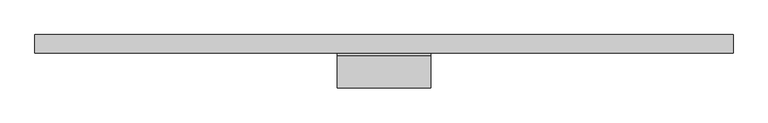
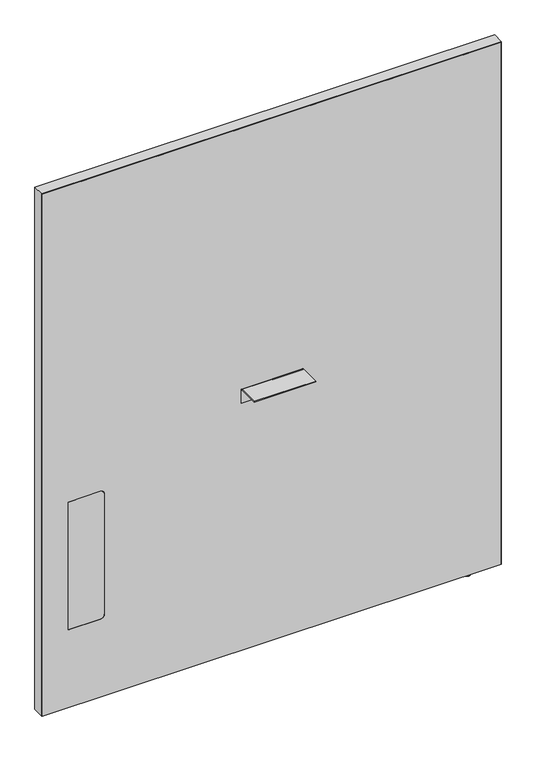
"""IFC4 building model written with IfcOpenShell, lengths in millimetres: furniture geometry, Steelcase - Answer Solution - Boundary Screen - Straight - Single Sided : 54H x 45W."""

import ifcopenshell
import ifcopenshell.guid

model = None  # the IFC model being written
_history = None  # IfcOwnerHistory: only IFC2X3 demands one
_inside = {}  # id of a spatial element -> (the spatial element, [elements in it])
_under = {}  # id of a project, library or spatial element -> (it, [spatial elements below it])
_declared = {}  # id of a project -> (the project, [libraries it declares])
_typed = {}  # id of a type object -> (the type object, [elements of that type])
_made_of = {}  # id of a material, layer set ... -> (it, [elements and type objects made of it])


def new_model(schema):
    """Start an empty IFC model of exactly this schema.

    Asked for "IFC4X3", IfcOpenShell would pick the latest addendum, in which some entities
    have other attributes; the version numbers below select the first issue.
    IFC2X3 requires an IfcOwnerHistory on every rooted entity: one is made here for all.
    """
    global model, _history
    if schema == "IFC4X3":
        model = ifcopenshell.file(schema_version=(4, 3, 0, 0))
    else:
        model = ifcopenshell.file(schema=schema)
    _inside.clear()
    _under.clear()
    _declared.clear()
    _typed.clear()
    _made_of.clear()
    _history = None
    if model.schema == "IFC2X3":
        org = make("IfcOrganization", Name="unknown")
        user = make(
            "IfcPersonAndOrganization",
            ThePerson=make("IfcPerson", FamilyName="unknown"),
            TheOrganization=org,
        )
        app = make(
            "IfcApplication",
            ApplicationDeveloper=org,
            Version="unknown",
            ApplicationFullName="unknown",
            ApplicationIdentifier="unknown",
        )
        _history = make(
            "IfcOwnerHistory",
            OwningUser=user,
            OwningApplication=app,
            ChangeAction="ADDED",
            CreationDate=0,
        )
    return model


def make(cls, **values):
    """One entity of the class cls with the attributes given. An attribute that is None is left unset."""
    return model.create_entity(
        cls, **{name: value for name, value in values.items() if value is not None}
    )


def rooted(cls, **values):
    """An entity with a GlobalId (a new one), such as an element, a storey or a relation."""
    return make(cls, GlobalId=ifcopenshell.guid.new(), OwnerHistory=_history, **values)


def si_unit(unit_type, name, prefix=None):
    """IfcSIUnit, for example si_unit("LENGTHUNIT", "METRE", prefix="MILLI")."""
    return make("IfcSIUnit", UnitType=unit_type, Prefix=prefix, Name=name)


def assignment(units):
    """IfcUnitAssignment: the units of a project."""
    return None if units is None else make("IfcUnitAssignment", Units=units)


def point(xyz):
    """IfcCartesianPoint."""
    return None if xyz is None else make("IfcCartesianPoint", Coordinates=xyz)


def direction(xyz):
    """IfcDirection."""
    return None if xyz is None else make("IfcDirection", DirectionRatios=xyz)


def frame(location, z_axis=None, x_axis=None):
    """IfcAxis2Placement3D, a coordinate frame: its origin and axes. An axis left out is left unset."""
    return make(
        "IfcAxis2Placement3D",
        Location=point(location),
        Axis=direction(z_axis),
        RefDirection=direction(x_axis),
    )


def frame_2d(location, x_axis=None):
    """IfcAxis2Placement2D, a coordinate frame in the plane: its origin and x axis."""
    return make(
        "IfcAxis2Placement2D", Location=point(location), RefDirection=direction(x_axis)
    )


def origin():
    """The frame at (0, 0, 0) with its axes left unset."""
    return frame((0.0, 0.0, 0.0))


def place(relative_to, where):
    """IfcLocalPlacement: puts the frame where relative to a parent placement (None: the world)."""
    return make(
        "IfcLocalPlacement", PlacementRelTo=relative_to, RelativePlacement=where
    )


def context(
    kind, dimensions, precision=None, world=None, true_north=None, identifier=None
):
    """IfcGeometricRepresentationContext, for example the 3D "Model" context."""
    return make(
        "IfcGeometricRepresentationContext",
        ContextIdentifier=identifier,
        ContextType=kind,
        CoordinateSpaceDimension=dimensions,
        Precision=precision,
        WorldCoordinateSystem=world,
        TrueNorth=true_north,
    )


def project(units=None, contexts=None):
    """IfcProject with its units and contexts."""
    return rooted(
        "IfcProject",
        Name="project",
        RepresentationContexts=contexts,
        UnitsInContext=assignment(units),
    )


def spatial(cls, under=None, at=None, **own):
    """A site, building, storey or space (cls), placed at a placement, below another one or the project."""
    s = rooted(cls, ObjectPlacement=at, **own)
    if under is not None:
        _under.setdefault(under.id(), (under, []))[1].append(s)
    return s


def polyline(points):
    """IfcPolyline through the points."""
    return make("IfcPolyline", Points=[point(p) for p in points])


def circle_curve(where, radius):
    """IfcCircle in the frame where."""
    return make("IfcCircle", Position=where, Radius=radius)


def ellipse_curve(where, semi_axis1, semi_axis2):
    """IfcEllipse in the frame where."""
    return make(
        "IfcEllipse", Position=where, SemiAxis1=semi_axis1, SemiAxis2=semi_axis2
    )


def trimmed(basis, trim1, trim2, sense, master):
    """IfcTrimmedCurve: the piece of a basis curve between two trims."""
    return make(
        "IfcTrimmedCurve",
        BasisCurve=basis,
        Trim1=trim1,
        Trim2=trim2,
        SenseAgreement=sense,
        MasterRepresentation=master,
    )


def segment(curve, same_sense, transition):
    """IfcCompositeCurveSegment."""
    return make(
        "IfcCompositeCurveSegment",
        Transition=transition,
        SameSense=same_sense,
        ParentCurve=curve,
    )


def composite_curve(segments, self_intersect=None):
    """IfcCompositeCurve: segments joined end to end."""
    return make("IfcCompositeCurve", Segments=segments, SelfIntersect=self_intersect)


def outline(outer, holes=None, kind="AREA"):
    """IfcArbitraryClosedProfileDef: a profile drawn as a closed curve; with holes, ...WithVoids."""
    if holes is None:
        return make("IfcArbitraryClosedProfileDef", ProfileType=kind, OuterCurve=outer)
    return make(
        "IfcArbitraryProfileDefWithVoids",
        ProfileType=kind,
        OuterCurve=outer,
        InnerCurves=holes,
    )


def extrude(swept, where, along, depth):
    """IfcExtrudedAreaSolid: the profile swept, set in the frame where, extruded along a direction by depth."""
    return make(
        "IfcExtrudedAreaSolid",
        SweptArea=swept,
        Position=where,
        ExtrudedDirection=direction(along),
        Depth=depth,
    )


def shape(context_of_items, identifier, shape_type, items):
    """IfcShapeRepresentation: the items that make up one representation, for example the "Body"."""
    return make(
        "IfcShapeRepresentation",
        ContextOfItems=context_of_items,
        RepresentationIdentifier=identifier,
        RepresentationType=shape_type,
        Items=items,
    )


def source(mapping_origin, context_of_items, identifier, shape_type, items):
    """IfcRepresentationMap: a shape defined once, which mapped items show again and again."""
    return make(
        "IfcRepresentationMap",
        MappingOrigin=mapping_origin,
        MappedRepresentation=shape(context_of_items, identifier, shape_type, items),
    )


def transform(
    local_origin,
    x_axis=None,
    y_axis=None,
    z_axis=None,
    scale=None,
    scale2=None,
    scale3=None,
    uniform=True,
):
    """IfcCartesianTransformationOperator3D, or its non-uniform kind. x_axis, y_axis, z_axis: its Axis1, 2, 3."""
    if uniform:
        return make(
            "IfcCartesianTransformationOperator3D",
            Axis1=direction(x_axis),
            Axis2=direction(y_axis),
            LocalOrigin=point(local_origin),
            Scale=scale,
            Axis3=direction(z_axis),
        )
    return make(
        "IfcCartesianTransformationOperator3DnonUniform",
        Axis1=direction(x_axis),
        Axis2=direction(y_axis),
        LocalOrigin=point(local_origin),
        Scale=scale,
        Axis3=direction(z_axis),
        Scale2=scale2,
        Scale3=scale3,
    )


def mapped(mapping_source, mapping_target):
    """IfcMappedItem: shows the shape of a source again, moved by a transform."""
    return make(
        "IfcMappedItem", MappingSource=mapping_source, MappingTarget=mapping_target
    )


def made_of(thing, what):
    """Note that an element or type object is made of a material, layer set ...; save() writes the relation."""
    if what is not None:
        _made_of.setdefault(what.id(), (what, []))[1].append(thing)
    return thing


def element(
    cls,
    number,
    at=None,
    inside=None,
    cuts=None,
    type_object=None,
    material=None,
    context=None,
    identifier="Body",
    shape_type=None,
    held_by="IfcProductDefinitionShape",
    body=None,
    shapes=None,
    **own,
):
    """One element of the class cls, such as IfcWall. Its Tag is "e" and its number.

    at: its placement. inside: the storey or other place that contains it. cuts: it is an
    opening in that element (IfcRelVoidsElement). A single representation is given by context,
    identifier, shape_type and body (its items); several are given by shapes. held_by: the class
    of the entity that holds the representations. save() writes the other relations.
    """
    e = rooted(cls, Tag="e%d" % number, ObjectPlacement=at, **own)
    if body is not None:
        shapes = [shape(context, identifier, shape_type, body)]
    if shapes is not None:
        e.Representation = make(held_by, Representations=shapes)
    if inside is not None:
        _inside.setdefault(inside.id(), (inside, []))[1].append(e)
    if cuts is not None:
        rooted(
            "IfcRelVoidsElement", RelatingBuildingElement=cuts, RelatedOpeningElement=e
        )
    if type_object is not None:
        _typed.setdefault(type_object.id(), (type_object, []))[1].append(e)
    return made_of(e, material)


def aggregate(whole, parts):
    """IfcRelAggregates: a whole, such as a stair, and the parts it consists of."""
    return rooted("IfcRelAggregates", RelatingObject=whole, RelatedObjects=parts)


def save(model, path):
    """Write the relations noted so far, then the file.

    IfcRelAggregates (storeys below a building ...), IfcRelContainedInSpatialStructure (elements
    in a storey), IfcRelDefinesByType, IfcRelAssociatesMaterial and IfcRelDeclares: one each for
    every whole, place, type object, material and project.
    """
    for whole, parts in _under.values():
        aggregate(whole, parts)
    for where, things in _inside.values():
        rooted(
            "IfcRelContainedInSpatialStructure",
            RelatedElements=things,
            RelatingStructure=where,
        )
    for kind, things in _typed.values():
        rooted("IfcRelDefinesByType", RelatedObjects=things, RelatingType=kind)
    for what, things in _made_of.values():
        rooted("IfcRelAssociatesMaterial", RelatedObjects=things, RelatingMaterial=what)
    for by, libraries in _declared.values():
        rooted("IfcRelDeclares", RelatingContext=by, RelatedDefinitions=libraries)
    model.write(path)


def plane_surface(at):
    """IfcPlane: the flat surface through the origin of the frame at, square to its z axis."""
    return make("IfcPlane", Position=at)


def cylinder_surface(at, radius):
    """IfcCylindricalSurface: all points at the distance radius from the z axis of the frame at."""
    return make("IfcCylindricalSurface", Position=at, Radius=radius)


def revolved_surface(curve, axis_point, axis_direction):
    """IfcSurfaceOfRevolution: the curve turned about the line through axis_point along axis_direction."""
    return make(
        "IfcSurfaceOfRevolution",
        SweptCurve=make("IfcArbitraryOpenProfileDef", ProfileType="CURVE", Curve=curve),
        AxisPosition=make("IfcAxis1Placement", Location=point(axis_point), Axis=direction(axis_direction)),
    )


def advanced_brep(points, edges, surfaces, faces):
    """IfcAdvancedBrep: a solid bounded by faces that lie on surfaces and meet in shared edges.

    An edge is (start, end): straight between two places in points (the first is 0);
    or (start, end, curve); or (start, end, curve, False) where it runs against its curve.
    A face is (place in surfaces, loops), or (place, loops, False) where it looks against
    its surface's normal. A loop lists edges by number (the first is 1), with a minus sign
    where the edge is run from its end to its start. The first loop is the outer one.
    """
    corners = [point(p) for p in points]
    vertices = [make("IfcVertexPoint", VertexGeometry=c) for c in corners]
    made = []
    for start, end, *more in edges:
        made.append(
            make(
                "IfcEdgeCurve",
                EdgeStart=vertices[start],
                EdgeEnd=vertices[end],
                EdgeGeometry=more[0] if more else make("IfcPolyline", Points=[corners[start], corners[end]]),
                SameSense=more[1] if len(more) > 1 else True,
            )
        )
    hull = []
    for where, loops, *sense in faces:
        bounds = []
        for j, loop in enumerate(loops):
            ring = [make("IfcOrientedEdge", EdgeElement=made[abs(k) - 1], Orientation=k > 0) for k in loop]
            bounds.append(
                make(
                    "IfcFaceOuterBound" if j == 0 else "IfcFaceBound",
                    Bound=make("IfcEdgeLoop", EdgeList=ring),
                    Orientation=True,
                )
            )
        hull.append(make("IfcAdvancedFace", Bounds=bounds, FaceSurface=surfaces[where], SameSense=sense[0] if sense else True))
    return make("IfcAdvancedBrep", Outer=make("IfcClosedShell", CfsFaces=hull))


def furniture_5954ce28(model_context):
    return source(origin(), model_context, "Body", "SolidModel", [
        extrude(outline(composite_curve([segment(polyline([(-86.8398151, 696.4680019), (-86.8398151, 698.5), (-34.9450855, 698.5)]), True, "CONTINUOUS"), segment(trimmed(circle_curve(frame_2d((-34.9450855, 693.2447477)), 5.2552523), [point((-34.9450855, 698.5))], [point((-29.6898332, 693.2447477))], False, "CARTESIAN"), True, "CONTINUOUS"), segment(polyline([(-29.6898332, 693.2447477), (-29.6898332, 660.4), (-31.7218162, 660.4), (-31.7218162, 693.0058743)]), True, "CONTINUOUS"), segment(trimmed(circle_curve(frame_2d((-35.1839438, 693.0058743)), 3.4621276), [point((-31.7218162, 693.0058743))], [point((-35.1839438, 696.4680019))], True, "CARTESIAN"), True, "CONTINUOUS"), segment(polyline([(-35.1839438, 696.4680019), (-86.8398151, 696.4680019)]), True, "CONTINUOUS")], self_intersect=False)), frame((-151.1808593, 0.0, 0.0), z_axis=(1.0, 0.0, 0.0), x_axis=(0.0, 1.0, 0.0)), (0.0, 0.0, 1.0), 152.4000969),
        advanced_brep(
        [(419.3286488, -23.7588726, 9.9059849), (419.3286488, -5.9309607, 9.9059849), (419.3286488, -14.8449166, 9.9059849), (419.3286488, -23.7588726, 2.9673238), (419.3286488, -5.9309607, 2.9673238), (419.3286488, -22.7915354, 2.9673238), (419.3286488, -6.8982978, 2.9673238), (419.3286488, -22.7915354, 1.6569081), (419.3286488, -6.8982978, 1.6569081), (419.3286488, -21.1346274, 0.0), (419.3286488, -8.5552059, 0.0), (419.3286488, -14.8449166, 0.0)],
        [
            (0, 1, circle_curve(frame((419.3286488, -14.8449166, 9.9059849), z_axis=(0.0, 0.0, 1.0), x_axis=(0.0, 1.0, 0.0)), 8.913956)),
            (1, 2),
            (2, 0),
            (1, 0, circle_curve(frame((419.3286488, -14.8449166, 9.9059849), z_axis=(0.0, 0.0, 1.0), x_axis=(0.0, 1.0, 0.0)), 8.913956)),
            (3, 4, circle_curve(frame((419.3286488, -14.8449166, 2.9673238), z_axis=(0.0, 0.0, 1.0), x_axis=(0.0, 1.0, 0.0)), 8.913956)),
            (4, 1),
            (0, 3),
            (4, 3, circle_curve(frame((419.3286488, -14.8449166, 2.9673238), z_axis=(0.0, 0.0, 1.0), x_axis=(0.0, 1.0, 0.0)), 8.913956)),
            (5, 6, circle_curve(frame((419.3286488, -14.8449166, 2.9673238), z_axis=(0.0, 0.0, 1.0), x_axis=(0.0, 1.0, 0.0)), 7.9466188)),
            (6, 4),
            (3, 5),
            (6, 5, circle_curve(frame((419.3286488, -14.8449166, 2.9673238), z_axis=(0.0, 0.0, 1.0), x_axis=(0.0, 1.0, 0.0)), 7.9466188)),
            (7, 8, circle_curve(frame((419.3286488, -14.8449166, 1.6569081), z_axis=(0.0, 0.0, 1.0), x_axis=(0.0, 1.0, 0.0)), 7.9466188)),
            (8, 6),
            (5, 7),
            (8, 7, circle_curve(frame((419.3286488, -14.8449166, 1.6569081), z_axis=(0.0, 0.0, 1.0), x_axis=(0.0, 1.0, 0.0)), 7.9466188)),
            (9, 10, circle_curve(frame((419.3286488, -14.8449166, 0.0), z_axis=(0.0, 0.0, 1.0), x_axis=(0.0, 1.0, 0.0)), 6.2897107)),
            (10, 8, circle_curve(frame((419.3286488, -8.5552059, 1.6569081), z_axis=(1.0, 0.0, 0.0), x_axis=(0.0, 1.0, 0.0)), 1.6569081)),
            (7, 9, circle_curve(frame((419.3286488, -21.1346274, 1.6569081), z_axis=(1.0, 0.0, 0.0), x_axis=(0.0, -1.0, 0.0)), 1.6569081)),
            (10, 9, circle_curve(frame((419.3286488, -14.8449166, 0.0), z_axis=(0.0, 0.0, 1.0), x_axis=(0.0, 1.0, 0.0)), 6.2897107)),
            (11, 10),
            (9, 11),
        ],
        [
            plane_surface(frame((419.3286488, -14.8449166, 9.9059849), z_axis=(0.0, 0.0, 1.0), x_axis=(0.0, 1.0, 0.0))),
            cylinder_surface(frame((419.3286488, -14.8449166, 9.9059849), z_axis=(0.0, 0.0, -1.0), x_axis=(0.0, 1.0, 0.0)), 8.913956),
            plane_surface(frame((419.3286488, -14.8449166, 2.9673238), z_axis=(0.0, 0.0, -1.0), x_axis=(0.0, 1.0, 0.0))),
            cylinder_surface(frame((419.3286488, -14.8449166, 9.9059849), z_axis=(0.0, 0.0, -1.0), x_axis=(0.0, 1.0, 0.0)), 7.9466188),
            revolved_surface(trimmed(ellipse_curve(frame((419.3286488, -8.5552059, 1.6569081), z_axis=(-1.0, 0.0, 0.0), x_axis=(0.0, 1.0, 0.0)), 1.6569081, 1.6569081), [point((419.3286488, -6.8982978, 1.6569081))], [point((419.3286488, -8.5552059, 0.0))], True, "CARTESIAN"), (419.3286488, -14.8449166, 9.9059849), (0.0, 0.0, -1.0)),
            plane_surface(frame((419.3286488, -14.8449166, 0.0), z_axis=(0.0, 0.0, -1.0), x_axis=(0.0, 1.0, 0.0))),
        ],
        [
            (0, [[1, 2, 3]]),
            (0, [[4, -3, -2]]),
            (1, [[5, 6, -1, 7]]),
            (1, [[8, -7, -4, -6]]),
            (2, [[9, 10, -5, 11]]),
            (2, [[12, -11, -8, -10]]),
            (3, [[13, 14, -9, 15]]),
            (3, [[16, -15, -12, -14]]),
            (4, [[17, 18, -13, 19]]),
            (4, [[20, -19, -16, -18]]),
            (5, [[21, -17, 22]]),
            (5, [[-22, -20, -21]]),
        ],
    ),
        advanced_brep(
        [(495.4780168, 0.0, 1381.542118), (495.4780168, 0.0, 9.9059849), (-645.4902221, 0.0, 9.9059849), (-645.4902221, 0.0, 1381.542118), (495.4780168, -29.6898332, 1381.542118), (-645.4902221, -29.6898332, 1381.542118), (-645.4902221, -29.6898332, 9.9059849), (495.4780168, -29.6898332, 9.9059849), (-501.1463873, -29.6898332, 549.6162029), (-490.9863873, -29.6898332, 539.4562029), (-490.9863873, -29.6898332, 223.9362137), (-501.1463873, -29.6898332, 213.7762137), (-580.800285, -29.6898332, 213.7762137), (-580.800285, -29.6898332, 549.6162029), (-580.800285, -29.0550397, 549.6162029), (-501.1463873, -29.0550397, 549.6162029), (-580.800285, -29.0550397, 213.7762137), (-501.1463873, -29.0550397, 213.7762137), (-490.9863873, -29.0550397, 223.9362137), (-490.9863873, -29.0550397, 539.4562029)],
        [
            (0, 1),
            (1, 2),
            (2, 3),
            (3, 0),
            (4, 5),
            (5, 6),
            (6, 7),
            (7, 4),
            (8, 9, circle_curve(frame((-501.1463873, -29.6898332, 539.4562029), z_axis=(0.0, 1.0, 0.0), x_axis=(0.0, 0.0, 1.0)), 10.16)),
            (9, 10),
            (10, 11, circle_curve(frame((-501.1463873, -29.6898332, 223.9362137), z_axis=(0.0, 1.0, 0.0), x_axis=(0.0, 0.0, 1.0)), 10.16)),
            (11, 12),
            (12, 13),
            (13, 8),
            (0, 4),
            (7, 1),
            (6, 2),
            (5, 3),
            (13, 14),
            (14, 15),
            (15, 8),
            (12, 16),
            (16, 14),
            (11, 17),
            (17, 16),
            (10, 18),
            (18, 17, circle_curve(frame((-501.1463873, -29.0550397, 223.9362137), z_axis=(0.0, 1.0, 0.0), x_axis=(0.0, 0.0, 1.0)), 10.16)),
            (9, 19),
            (19, 18),
            (15, 19, circle_curve(frame((-501.1463873, -29.0550397, 539.4562029), z_axis=(0.0, 1.0, 0.0), x_axis=(0.0, 0.0, 1.0)), 10.16)),
        ],
        [
            plane_surface(frame((495.4780168, 0.0, 1381.542118), z_axis=(0.0, 1.0, 0.0), x_axis=(0.0, 0.0, -1.0))),
            plane_surface(frame((495.4780168, -29.6898332, 1381.542118), z_axis=(0.0, -1.0, 0.0), x_axis=(0.0, 0.0, 1.0))),
            plane_surface(frame((495.4780168, 0.0, 1381.542118), z_axis=(1.0, 0.0, 0.0), x_axis=(0.0, -1.0, 0.0))),
            plane_surface(frame((495.4780168, 0.0, 9.9059849), z_axis=(0.0, 0.0, -1.0), x_axis=(0.0, -1.0, 0.0))),
            plane_surface(frame((-645.4902221, 0.0, 9.9059849), z_axis=(-1.0, 0.0, 0.0), x_axis=(0.0, -1.0, 0.0))),
            plane_surface(frame((-645.4902221, 0.0, 1381.542118), z_axis=(0.0, 0.0, 1.0), x_axis=(0.0, -1.0, 0.0))),
            plane_surface(frame((-501.1463873, 0.0, 549.6162029), z_axis=(0.0, 0.0, -1.0), x_axis=(0.0, -1.0, 0.0))),
            plane_surface(frame((-580.800285, 0.0, 549.6162029), z_axis=(1.0, 0.0, 0.0), x_axis=(0.0, -1.0, 0.0))),
            plane_surface(frame((-580.800285, 0.0, 213.7762137), z_axis=(0.0, 0.0, 1.0), x_axis=(0.0, -1.0, 0.0))),
            revolved_surface(polyline([(-501.1463873, -29.6898332, 234.0962137), (-501.1463873, -29.0550397, 234.0962137)]), (-501.1463873, -29.6898332, 223.9362137), (0.0, -1.0, 0.0)),
            plane_surface(frame((-490.9863873, 0.0, 223.9362137), z_axis=(-1.0, 0.0, 0.0), x_axis=(0.0, -1.0, 0.0))),
            revolved_surface(polyline([(-501.1463873, -29.6898332, 549.6162029), (-501.1463873, -29.0550397, 549.6162029)]), (-501.1463873, -29.6898332, 539.4562029), (0.0, -1.0, 0.0)),
            plane_surface(frame((-490.9863873, -29.0550397, 629.172953), z_axis=(0.0, -1.0, 0.0), x_axis=(0.0, 0.0, 1.0))),
        ],
        [
            (0, [[1, 2, 3, 4]]),
            (1, [[5, 6, 7, 8], [9, 10, 11, 12, 13, 14]]),
            (2, [[-1, 15, -8, 16]]),
            (3, [[-2, -16, -7, 17]]),
            (4, [[-3, -17, -6, 18]]),
            (5, [[-4, -18, -5, -15]]),
            (6, [[-14, 19, 20, 21]]),
            (7, [[-13, 22, 23, -19]]),
            (8, [[-12, 24, 25, -22]]),
            (9, [[-11, 26, 27, -24]]),
            (10, [[-10, 28, 29, -26]]),
            (11, [[-9, -21, 30, -28]]),
            (12, [[-20, -23, -25, -27, -29, -30]]),
        ],
    ),
        extrude(outline(composite_curve([segment(polyline([(549.6162029, -501.1463873), (549.6162029, -580.800285), (213.7762137, -580.800285), (213.7762137, -501.1463873)]), True, "CONTINUOUS"), segment(trimmed(circle_curve(frame_2d((223.9362137, -501.1463873)), 10.16), [point((213.7762137, -501.1463873))], [point((223.9362137, -490.9863873))], False, "CARTESIAN"), True, "CONTINUOUS"), segment(polyline([(223.9362137, -490.9863873), (539.4562029, -490.9863873)]), True, "CONTINUOUS"), segment(trimmed(circle_curve(frame_2d((539.4562029, -501.1463873)), 10.16), [point((539.4562029, -490.9863873))], [point((549.6162029, -501.1463873))], False, "CARTESIAN"), True, "CONTINUOUS")], self_intersect=False)), frame((0.0, -29.6898332, 0.0), z_axis=(0.0, 1.0, 0.0), x_axis=(0.0, 0.0, 1.0)), (0.0, 0.0, 1.0), 0.6347935),
        extrude(outline(polyline([(1382.522, 496.5191891), (1382.522, -646.4808109), (9.9059849, -646.4808109), (9.9059849, -645.4902221), (1381.542118, -645.4902221), (1381.542118, 495.4780168), (9.9059849, 495.4780168), (9.9059849, 496.5191891), (1382.522, 496.5191891)])), frame((0.0, -29.6898332, 0.0), z_axis=(0.0, 1.0, 0.0), x_axis=(0.0, 0.0, 1.0)), (0.0, 0.0, 1.0), 29.6898332),
    ])


if __name__ == "__main__":
    model = new_model("IFC4")
    model_context = context("Model", 3, world=origin())
    ifc_project = project(units=[si_unit("LENGTHUNIT", "METRE", prefix="MILLI")], contexts=[model_context])
    site = spatial("IfcSite", under=ifc_project)
    building = spatial("IfcBuilding", under=site)
    placement = place(None, origin())
    furniture_shape = furniture_5954ce28(model_context)
    element("IfcFurniture", 1, ObjectType="Steelcase - Answer Solution - Boundary Screen - Straight - Single Sided : 54H x 45W", at=placement, inside=building, context=model_context, shape_type="MappedRepresentation", body=[
        mapped(furniture_shape, transform((0.0, 0.0, 0.0), x_axis=(1.0, 0.0, 0.0), y_axis=(0.0, 1.0, 0.0), z_axis=(0.0, 0.0, 1.0))),
    ])
    save(model, "model.ifc")
